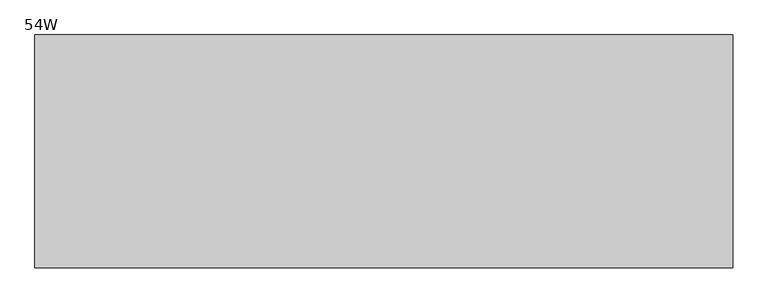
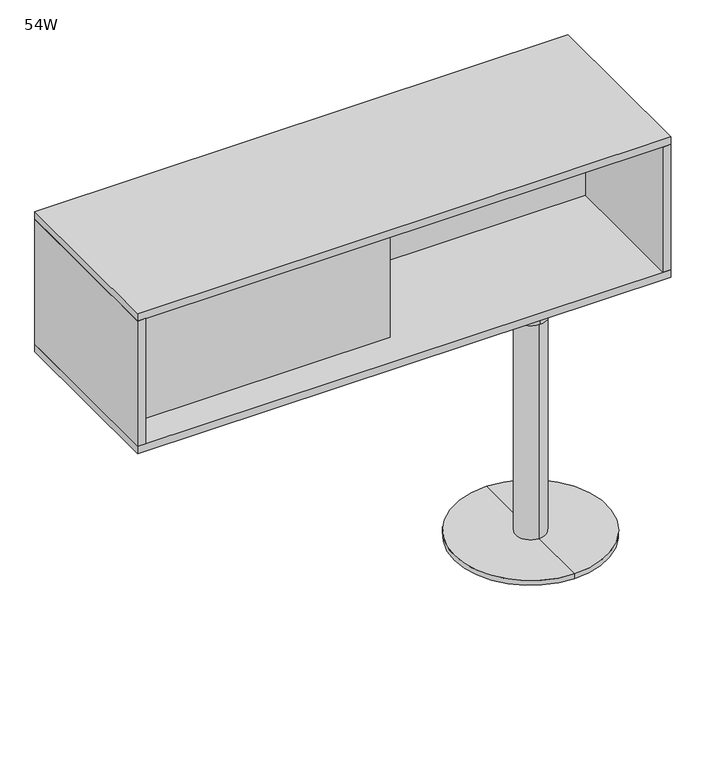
"""IFC4 building model written with IfcOpenShell, lengths in millimetres: furniture geometry, Steelcase - Duo Storage - For Use with Answer Junction - Tall Storage with Leg - Shared : 54W."""

from ifc_helpers import new_model, si_unit, frame, origin, place, context, project, spatial, polyline, circle_curve, outline, extrude, source, transform, mapped, element, save
from ifc_brep_helpers import plane_surface, cylinder_surface, advanced_brep


def furniture_54w_5c1945f5(model_context):
    return source(origin(), model_context, "Body", "SolidModel", [
        advanced_brep(
        [(1143.0, 196.1389534, 0.0), (1143.0, -196.1389534, 0.0), (1143.0, -196.1389534, 12.7), (1143.0, 196.1389534, 12.7), (1143.0, 0.0, 0.0), (1143.0, 41.4195882, 758.952), (1143.0, -41.4195882, 758.952), (1143.0, 0.0, 758.952), (1143.0, 41.4195882, 596.9), (1143.0, -41.4195882, 596.9), (1143.0, 38.1, 596.9), (1143.0, -38.1, 596.9), (1143.0, 38.1, 12.7), (1143.0, -38.1, 12.7)],
        [
            (0, 1, circle_curve(frame((1143.0, 0.0, 0.0), z_axis=(0.0, 0.0, 1.0), x_axis=(0.0, -1.0, 0.0)), 196.1389534)),
            (1, 2),
            (2, 3, circle_curve(frame((1143.0, 0.0, 12.7), z_axis=(0.0, 0.0, -1.0), x_axis=(0.0, -1.0, 0.0)), 196.1389534)),
            (3, 0),
            (1, 0, circle_curve(frame((1143.0, 0.0, 0.0), z_axis=(0.0, 0.0, 1.0), x_axis=(0.0, -1.0, 0.0)), 196.1389534)),
            (3, 2, circle_curve(frame((1143.0, 0.0, 12.7), z_axis=(0.0, 0.0, -1.0), x_axis=(0.0, -1.0, 0.0)), 196.1389534)),
            (4, 1),
            (0, 4),
            (5, 6, circle_curve(frame((1143.0, 0.0, 758.952), z_axis=(0.0, 0.0, 1.0), x_axis=(0.0, -1.0, 0.0)), 41.4195882)),
            (6, 7),
            (7, 5),
            (6, 5, circle_curve(frame((1143.0, 0.0, 758.952), z_axis=(0.0, 0.0, 1.0), x_axis=(0.0, -1.0, 0.0)), 41.4195882)),
            (8, 9, circle_curve(frame((1143.0, 0.0, 596.9), z_axis=(0.0, 0.0, 1.0), x_axis=(0.0, -1.0, 0.0)), 41.4195882)),
            (9, 6),
            (5, 8),
            (9, 8, circle_curve(frame((1143.0, 0.0, 596.9), z_axis=(0.0, 0.0, 1.0), x_axis=(0.0, -1.0, 0.0)), 41.4195882)),
            (10, 11, circle_curve(frame((1143.0, 0.0, 596.9), z_axis=(0.0, 0.0, 1.0), x_axis=(0.0, -1.0, 0.0)), 38.1)),
            (11, 9),
            (8, 10),
            (11, 10, circle_curve(frame((1143.0, 0.0, 596.9), z_axis=(0.0, 0.0, 1.0), x_axis=(0.0, -1.0, 0.0)), 38.1)),
            (12, 13, circle_curve(frame((1143.0, 0.0, 12.7), z_axis=(0.0, 0.0, 1.0), x_axis=(0.0, -1.0, 0.0)), 38.1)),
            (13, 11),
            (10, 12),
            (13, 12, circle_curve(frame((1143.0, 0.0, 12.7), z_axis=(0.0, 0.0, 1.0), x_axis=(0.0, -1.0, 0.0)), 38.1)),
            (2, 13),
            (12, 3),
        ],
        [
            cylinder_surface(frame((1143.0, 0.0, 581.025), z_axis=(0.0, 0.0, -1.0), x_axis=(0.0, -1.0, 0.0)), 196.1389534),
            plane_surface(frame((1143.0, 0.0, 0.0), z_axis=(0.0, 0.0, -1.0), x_axis=(0.0, -1.0, 0.0))),
            plane_surface(frame((1143.0, 0.0, 758.952), z_axis=(0.0, 0.0, 1.0), x_axis=(0.0, -1.0, 0.0))),
            cylinder_surface(frame((1143.0, 0.0, 581.025), z_axis=(0.0, 0.0, -1.0), x_axis=(0.0, -1.0, 0.0)), 41.4195882),
            plane_surface(frame((1143.0, 0.0, 596.9), z_axis=(0.0, 0.0, -1.0), x_axis=(0.0, -1.0, 0.0))),
            cylinder_surface(frame((1143.0, 0.0, 581.025), z_axis=(0.0, 0.0, -1.0), x_axis=(0.0, -1.0, 0.0)), 38.1),
            plane_surface(frame((1143.0, 0.0, 12.7), z_axis=(0.0, 0.0, 1.0), x_axis=(0.0, -1.0, 0.0))),
        ],
        [
            (0, [[1, 2, 3, 4]]),
            (0, [[5, -4, 6, -2]]),
            (1, [[7, -1, 8]]),
            (1, [[-8, -5, -7]]),
            (2, [[9, 10, 11]]),
            (2, [[12, -11, -10]]),
            (3, [[13, 14, -9, 15]]),
            (3, [[16, -15, -12, -14]]),
            (4, [[17, 18, -13, 19]]),
            (4, [[20, -19, -16, -18]]),
            (5, [[21, 22, -17, 23]]),
            (5, [[24, -23, -20, -22]]),
            (6, [[-3, 25, -21, 26]]),
            (6, [[-6, -26, -24, -25]]),
        ],
    ),
        extrude(outline(polyline([(20.32, -143.5099817), (20.32, -116.6876), (672.3886649, -116.6876), (672.3886649, 143.5100085), (1351.2797287, 143.5100085), (1351.2797287, 116.6876268), (699.2110466, 116.6876268), (699.2110466, -143.5099817), (20.32, -143.5099817)])), frame((0.0, 0.0, 779.8307207), z_axis=(0.0, 0.0, 1.0), x_axis=(1.0, 0.0, 0.0)), (0.0, 0.0, 1.0), 339.8012793),
        extrude(outline(polyline([(1371.6, 228.6), (1371.6, -228.6), (1351.2797287, -228.6), (1351.2797287, 228.6), (1371.6, 228.6)])), frame((0.0, 0.0, 779.2719806), z_axis=(0.0, 0.0, 1.0), x_axis=(1.0, 0.0, 0.0)), (0.0, 0.0, 1.0), 340.3600194),
        extrude(outline(polyline([(20.32, 228.6), (20.32, -228.6), (0.0, -228.6), (0.0, 228.6), (20.32, 228.6)])), frame((0.0, 0.0, 779.2719806), z_axis=(0.0, 0.0, 1.0), x_axis=(1.0, 0.0, 0.0)), (0.0, 0.0, 1.0), 340.3600194),
        extrude(outline(polyline([(1371.6, 228.6), (1371.6, -228.6), (0.0, -228.6), (0.0, 228.6), (1371.6, 228.6)])), frame((0.0, 0.0, 1119.632), z_axis=(0.0, 0.0, 1.0), x_axis=(1.0, 0.0, 0.0)), (0.0, 0.0, 1.0), 20.32),
        extrude(outline(polyline([(1371.6, 228.6), (1371.6, -228.6), (0.0, -228.6), (0.0, 228.6), (1371.6, 228.6)])), frame((0.0, 0.0, 758.952), z_axis=(0.0, 0.0, 1.0), x_axis=(1.0, 0.0, 0.0)), (0.0, 0.0, 1.0), 20.3199806),
    ])


if __name__ == "__main__":
    model = new_model("IFC4")
    model_context = context("Model", 3, world=origin())
    ifc_project = project(units=[si_unit("LENGTHUNIT", "METRE", prefix="MILLI")], contexts=[model_context])
    site = spatial("IfcSite", under=ifc_project)
    building = spatial("IfcBuilding", under=site)
    placement = place(None, origin())
    furniture_54w_shape = furniture_54w_5c1945f5(model_context)
    element("IfcFurniture", 1, ObjectType="Steelcase - Duo Storage - For Use with Answer Junction - Tall Storage with Leg - Shared : 54W", at=placement, inside=building, context=model_context, shape_type="MappedRepresentation", body=[
        mapped(furniture_54w_shape, transform((0.0, 0.0, 0.0), x_axis=(1.0, 0.0, 0.0), y_axis=(0.0, 1.0, 0.0), z_axis=(0.0, 0.0, 1.0))),
    ])
    save(model, "model.ifc")
